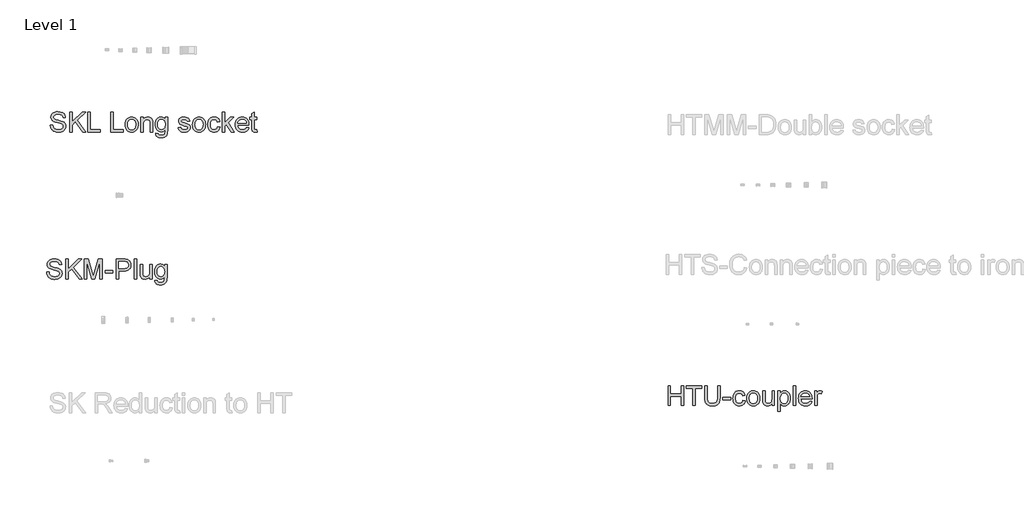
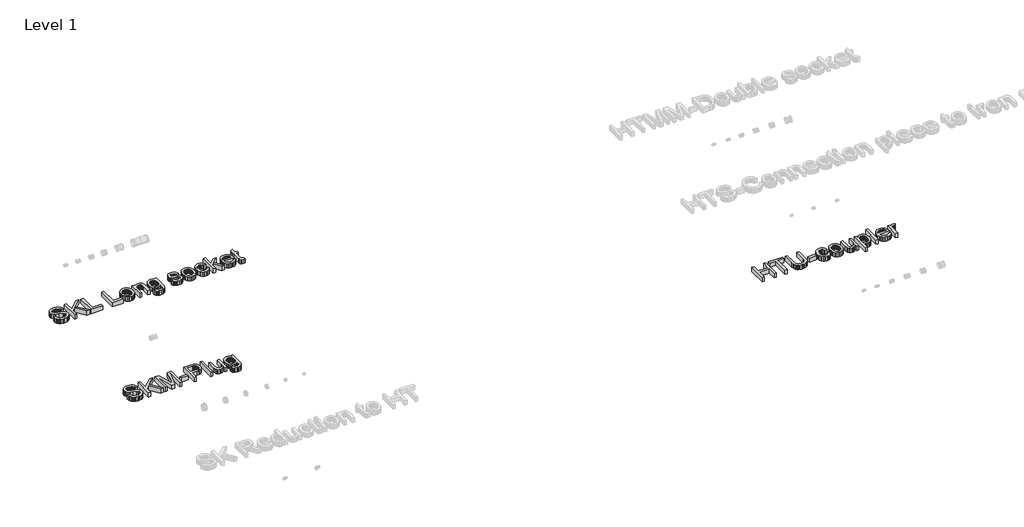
# One storey, part 15 of 29: 3 proxies.
"""IFC4 building model written with IfcOpenShell, lengths in millimetres."""

import ifcopenshell
import ifcopenshell.guid

model = None  # the IFC model being written
_history = None  # IfcOwnerHistory: only IFC2X3 demands one
_inside = {}  # id of a spatial element -> (the spatial element, [elements in it])
_under = {}  # id of a project, library or spatial element -> (it, [spatial elements below it])
_declared = {}  # id of a project -> (the project, [libraries it declares])
_typed = {}  # id of a type object -> (the type object, [elements of that type])
_made_of = {}  # id of a material, layer set ... -> (it, [elements and type objects made of it])


def new_model(schema):
    """Start an empty IFC model of exactly this schema.

    Asked for "IFC4X3", IfcOpenShell would pick the latest addendum, in which some entities
    have other attributes; the version numbers below select the first issue.
    IFC2X3 requires an IfcOwnerHistory on every rooted entity: one is made here for all.
    """
    global model, _history
    if schema == "IFC4X3":
        model = ifcopenshell.file(schema_version=(4, 3, 0, 0))
    else:
        model = ifcopenshell.file(schema=schema)
    _inside.clear()
    _under.clear()
    _declared.clear()
    _typed.clear()
    _made_of.clear()
    _history = None
    if model.schema == "IFC2X3":
        org = make("IfcOrganization", Name="unknown")
        user = make(
            "IfcPersonAndOrganization",
            ThePerson=make("IfcPerson", FamilyName="unknown"),
            TheOrganization=org,
        )
        app = make(
            "IfcApplication",
            ApplicationDeveloper=org,
            Version="unknown",
            ApplicationFullName="unknown",
            ApplicationIdentifier="unknown",
        )
        _history = make(
            "IfcOwnerHistory",
            OwningUser=user,
            OwningApplication=app,
            ChangeAction="ADDED",
            CreationDate=0,
        )
    return model


def make(cls, **values):
    """One entity of the class cls with the attributes given. An attribute that is None is left unset."""
    return model.create_entity(
        cls, **{name: value for name, value in values.items() if value is not None}
    )


def rooted(cls, **values):
    """An entity with a GlobalId (a new one), such as an element, a storey or a relation."""
    return make(cls, GlobalId=ifcopenshell.guid.new(), OwnerHistory=_history, **values)


def si_unit(unit_type, name, prefix=None):
    """IfcSIUnit, for example si_unit("LENGTHUNIT", "METRE", prefix="MILLI")."""
    return make("IfcSIUnit", UnitType=unit_type, Prefix=prefix, Name=name)


def assignment(units):
    """IfcUnitAssignment: the units of a project."""
    return None if units is None else make("IfcUnitAssignment", Units=units)


def point(xyz):
    """IfcCartesianPoint."""
    return None if xyz is None else make("IfcCartesianPoint", Coordinates=xyz)


def direction(xyz):
    """IfcDirection."""
    return None if xyz is None else make("IfcDirection", DirectionRatios=xyz)


def frame(location, z_axis=None, x_axis=None):
    """IfcAxis2Placement3D, a coordinate frame: its origin and axes. An axis left out is left unset."""
    return make(
        "IfcAxis2Placement3D",
        Location=point(location),
        Axis=direction(z_axis),
        RefDirection=direction(x_axis),
    )


def origin():
    """The frame at (0, 0, 0) with its axes left unset."""
    return frame((0.0, 0.0, 0.0))


def origin_with_axes():
    """The frame at (0, 0, 0) with the z axis (0, 0, 1) and the x axis (1, 0, 0) written out."""
    return frame((0.0, 0.0, 0.0), z_axis=(0.0, 0.0, 1.0), x_axis=(1.0, 0.0, 0.0))


def place(relative_to, where):
    """IfcLocalPlacement: puts the frame where relative to a parent placement (None: the world)."""
    return make(
        "IfcLocalPlacement", PlacementRelTo=relative_to, RelativePlacement=where
    )


def context(
    kind, dimensions, precision=None, world=None, true_north=None, identifier=None
):
    """IfcGeometricRepresentationContext, for example the 3D "Model" context."""
    return make(
        "IfcGeometricRepresentationContext",
        ContextIdentifier=identifier,
        ContextType=kind,
        CoordinateSpaceDimension=dimensions,
        Precision=precision,
        WorldCoordinateSystem=world,
        TrueNorth=true_north,
    )


def project(units=None, contexts=None):
    """IfcProject with its units and contexts."""
    return rooted(
        "IfcProject",
        Name="project",
        RepresentationContexts=contexts,
        UnitsInContext=assignment(units),
    )


def spatial(cls, under=None, at=None, **own):
    """A site, building, storey or space (cls), placed at a placement, below another one or the project."""
    s = rooted(cls, ObjectPlacement=at, **own)
    if under is not None:
        _under.setdefault(under.id(), (under, []))[1].append(s)
    return s


def polyline(points):
    """IfcPolyline through the points."""
    return make("IfcPolyline", Points=[point(p) for p in points])


def outline(outer, holes=None, kind="AREA"):
    """IfcArbitraryClosedProfileDef: a profile drawn as a closed curve; with holes, ...WithVoids."""
    if holes is None:
        return make("IfcArbitraryClosedProfileDef", ProfileType=kind, OuterCurve=outer)
    return make(
        "IfcArbitraryProfileDefWithVoids",
        ProfileType=kind,
        OuterCurve=outer,
        InnerCurves=holes,
    )


def extrude(swept, where, along, depth):
    """IfcExtrudedAreaSolid: the profile swept, set in the frame where, extruded along a direction by depth."""
    return make(
        "IfcExtrudedAreaSolid",
        SweptArea=swept,
        Position=where,
        ExtrudedDirection=direction(along),
        Depth=depth,
    )


def shape(context_of_items, identifier, shape_type, items):
    """IfcShapeRepresentation: the items that make up one representation, for example the "Body"."""
    return make(
        "IfcShapeRepresentation",
        ContextOfItems=context_of_items,
        RepresentationIdentifier=identifier,
        RepresentationType=shape_type,
        Items=items,
    )


def made_of(thing, what):
    """Note that an element or type object is made of a material, layer set ...; save() writes the relation."""
    if what is not None:
        _made_of.setdefault(what.id(), (what, []))[1].append(thing)
    return thing


def element(
    cls,
    number,
    at=None,
    inside=None,
    cuts=None,
    type_object=None,
    material=None,
    context=None,
    identifier="Body",
    shape_type=None,
    held_by="IfcProductDefinitionShape",
    body=None,
    shapes=None,
    **own,
):
    """One element of the class cls, such as IfcWall. Its Tag is "e" and its number.

    at: its placement. inside: the storey or other place that contains it. cuts: it is an
    opening in that element (IfcRelVoidsElement). A single representation is given by context,
    identifier, shape_type and body (its items); several are given by shapes. held_by: the class
    of the entity that holds the representations. save() writes the other relations.
    """
    e = rooted(cls, Tag="e%d" % number, ObjectPlacement=at, **own)
    if body is not None:
        shapes = [shape(context, identifier, shape_type, body)]
    if shapes is not None:
        e.Representation = make(held_by, Representations=shapes)
    if inside is not None:
        _inside.setdefault(inside.id(), (inside, []))[1].append(e)
    if cuts is not None:
        rooted(
            "IfcRelVoidsElement", RelatingBuildingElement=cuts, RelatedOpeningElement=e
        )
    if type_object is not None:
        _typed.setdefault(type_object.id(), (type_object, []))[1].append(e)
    return made_of(e, material)


def aggregate(whole, parts):
    """IfcRelAggregates: a whole, such as a stair, and the parts it consists of."""
    return rooted("IfcRelAggregates", RelatingObject=whole, RelatedObjects=parts)


def save(model, path):
    """Write the relations noted so far, then the file.

    IfcRelAggregates (storeys below a building ...), IfcRelContainedInSpatialStructure (elements
    in a storey), IfcRelDefinesByType, IfcRelAssociatesMaterial and IfcRelDeclares: one each for
    every whole, place, type object, material and project.
    """
    for whole, parts in _under.values():
        aggregate(whole, parts)
    for where, things in _inside.values():
        rooted(
            "IfcRelContainedInSpatialStructure",
            RelatedElements=things,
            RelatingStructure=where,
        )
    for kind, things in _typed.values():
        rooted("IfcRelDefinesByType", RelatedObjects=things, RelatingType=kind)
    for what, things in _made_of.values():
        rooted("IfcRelAssociatesMaterial", RelatedObjects=things, RelatingMaterial=what)
    for by, libraries in _declared.values():
        rooted("IfcRelDeclares", RelatingContext=by, RelatedDefinitions=libraries)
    model.write(path)


model = new_model("IFC4")

# Units and contexts
model_context = context("Model", 3, world=origin())
ifc_project = project(units=[si_unit("LENGTHUNIT", "METRE", prefix="MILLI")], contexts=[model_context])

# Site, building, storey
site = spatial("IfcSite", under=ifc_project)
building = spatial("IfcBuilding", under=site)
storey = spatial("IfcBuildingStorey", under=building, Name="Level 1", Elevation=0.0)

# Proxies
placement = place(None, origin())
element("IfcBuildingElementProxy", 1, Name="600mm Arial", ObjectType="600mm Arial", at=placement, inside=storey, context=model_context, shape_type="SweptSolid", body=[
    extrude(outline(polyline([(-4445.901477, 3464.1130885), (-4370.5592444, 3464.1130885), (-4361.9140175, 3422.3032997), (-4346.2790327, 3388.6972795), (-4321.8884564, 3362.0258348), (-4286.9764551, 3341.0197729), (-4244.3021436, 3327.389745), (-4196.6246371, 3322.8464023), (-4154.6493014, 3326.286099), (-4117.8978901, 3336.605189), (-4088.1178426, 3352.9391495), (-4067.0565984, 3374.4234581), (-4054.5302164, 3399.0899458), (-4050.3547558, 3424.9704442), (-4053.4817527, 3450.188755), (-4062.8627436, 3471.9857632), (-4081.919031, 3490.582198), (-4114.0719173, 3506.1987887), (-4223.7743283, 3534.9671608), (-4295.7872289, 3554.005054), (-4341.8644487, 3572.1232423), (-4379.3700182, 3597.4703117), (-4405.9494923, 3628.1884583), (-4421.7868122, 3663.6154945), (-4427.0659188, 3703.0892325), (-4425.4334425, 3725.5254357), (-4420.5360134, 3747.2166779), (-4412.3736316, 3768.162959), (-4400.9462972, 3788.364279), (-4386.3827687, 3806.9975021), (-4368.8118049, 3823.2394922), (-4348.2334058, 3837.0902493), (-4324.6475714, 3848.5497734), (-4271.6357759, 3863.9456349), (-4212.9585976, 3869.0775888), (-4149.3885889, 3863.7065116), (-4093.7648312, 3847.5932803), (-4069.4294372, 3835.5911302), (-4048.0738874, 3821.0689884), (-4029.6981817, 3804.026855), (-4014.3023202, 3784.4647299), (-4002.0058646, 3762.9528302), (-3992.9283763, 3740.0613731), (-3987.0698555, 3715.7903584), (-3984.4303022, 3690.1397863), (-4059.7725348, 3690.1397863), (-4064.8125182, 3714.1808747), (-4073.6048979, 3735.0949661), (-4086.1496739, 3752.8820606), (-4102.4468463, 3767.5421581), (-4122.7999177, 3779.0016823), (-4147.5123907, 3787.1870566), (-4176.5842654, 3792.0982813), (-4210.0155417, 3793.7353562), (-4244.5136758, 3792.1166754), (-4273.9902206, 3787.260633), (-4298.4451763, 3779.1672291), (-4317.8785427, 3767.8364637), (-4332.685793, 3754.2156328), (-4343.2624003, 3739.2520327), (-4349.6083647, 3722.9456632), (-4351.7236862, 3705.2965245), (-4350.2245671, 3690.1121952), (-4345.7272097, 3676.3442115), (-4338.231614, 3663.9925735), (-4327.7377801, 3653.0572812), (-4311.2198785, 3642.701403), (-4285.2106215, 3632.2351603), (-4204.7180409, 3610.971581), (-4121.6502864, 3590.7748594), (-4071.3976059, 3573.1533118), (-4028.447383, 3545.8196796), (-4011.8421094, 3529.7524335), (-3998.4833945, 3512.0849007), (-3988.2148883, 3492.9090517), (-3980.880241, 3472.316857), (-3975.0125232, 3426.8834306), (-3976.7001818, 3403.3159903), (-3981.7631578, 3380.4383287), (-3990.201451, 3358.2504458), (-4002.0150616, 3336.7523417), (-4016.9970559, 3316.7763494), (-4034.9405002, 3299.1548018), (-4055.8453945, 3283.887699), (-4079.711739, 3270.975041), (-4105.8451562, 3260.7065348), (-4133.551269, 3253.3718875), (-4193.6815811, 3247.5041697), (-4232.2218186, 3249.0860623), (-4267.4971034, 3253.83174), (-4299.5074355, 3261.7412029), (-4328.2528149, 3272.814451), (-4353.9079856, 3287.0698783), (-4376.6476914, 3304.525879), (-4396.4719324, 3325.182453), (-4413.3807086, 3349.0396004), (-4427.0015395, 3375.3247689), (-4436.9619445, 3403.2654065), (-4443.2619237, 3432.861513), (-4445.901477, 3464.1130885)])), origin_with_axes(), (0.0, 0.0, 1.0), 150.0),
    extrude(outline(polyline([(-3861.9991742, 3256.9219488), (-3861.9991742, 3859.6598097), (-3786.6569416, 3859.6598097), (-3786.6569416, 3564.6184496), (-3477.6360657, 3859.6598097), (-3372.2746623, 3859.6598097), (-3631.7050453, 3611.8544977), (-3362.8568832, 3256.9219488), (-3454.9745348, 3256.9219488), (-3685.121511, 3560.9396296), (-3786.6569416, 3464.1130885), (-3786.6569416, 3256.9219488), (-3861.9991742, 3256.9219488)])), origin_with_axes(), (0.0, 0.0, 1.0), 150.0),
    extrude(outline(polyline([(-3306.3502087, 3256.9219488), (-3306.3502087, 3859.6598097), (-3176.7085936, 3859.6598097), (-3053.3945488, 3434.8296817), (-3028.525726, 3346.0965444), (-3001.5967639, 3442.1873216), (-2880.3428583, 3859.6598097), (-2750.7012432, 3859.6598097), (-2750.7012432, 3256.9219488), (-2826.0434758, 3256.9219488), (-2826.0434758, 3784.3175771), (-2977.463705, 3256.9219488), (-3079.5877469, 3256.9219488), (-3231.0079761, 3784.3175771), (-3231.0079761, 3256.9219488), (-3306.3502087, 3256.9219488)])), origin_with_axes(), (0.0, 0.0, 1.0), 150.0),
    extrude(outline(polyline([(-2665.9412315, 3435.8597512), (-2665.9412315, 3511.2019839), (-2430.4967546, 3511.2019839), (-2430.4967546, 3435.8597512), (-2665.9412315, 3435.8597512)])), origin_with_axes(), (0.0, 0.0, 1.0), 150.0),
    extrude(outline(polyline([(-2336.3189638, 3256.9219488), (-2336.3189638, 3859.6598097), (-2112.9410164, 3859.6598097), (-2060.9225023, 3858.2250699), (-2022.883504, 3853.9208506), (-1982.7291842, 3843.1970904), (-1949.6749869, 3825.7410897), (-1923.0587246, 3800.7619023), (-1902.2182095, 3767.4685817), (-1888.7537285, 3728.1971787), (-1884.2655682, 3685.283744), (-1887.2959961, 3648.2840123), (-1896.3872799, 3614.2457307), (-1911.5394196, 3583.1688992), (-1932.7524151, 3555.0535177), (-1961.8748736, 3531.7481933), (-2000.7554019, 3515.101533), (-2049.3940002, 3505.1135368), (-2107.7906684, 3501.7842048), (-2260.9767312, 3501.7842048), (-2260.9767312, 3256.9219488), (-2336.3189638, 3256.9219488)]), holes=[polyline([(-2260.9767312, 3577.1264374), (-2103.3760845, 3577.1264374), (-2067.139708, 3578.8554828), (-2036.5687142, 3584.0426189), (-2011.6631031, 3592.6878458), (-1992.4228748, 3604.7911634), (-1978.0662799, 3620.0306751), (-1967.8115693, 3638.084484), (-1961.6587429, 3658.9525902), (-1959.6078008, 3682.6349936), (-1964.445449, 3716.4801372), (-1978.9583937, 3745.02778), (-2001.3440131, 3766.5120885), (-2029.7996855, 3779.1672291), (-2058.8623631, 3783.0299901), (-2105.1419181, 3784.3175771), (-2260.9767312, 3784.3175771), (-2260.9767312, 3577.1264374)])]), origin_with_axes(), (0.0, 0.0, 1.0), 150.0),
    extrude(outline(polyline([(-1790.0877774, 3256.9219488), (-1790.0877774, 3859.6598097), (-1714.7455448, 3859.6598097), (-1714.7455448, 3256.9219488), (-1790.0877774, 3256.9219488)])), origin_with_axes(), (0.0, 0.0, 1.0), 150.0),
    extrude(outline(polyline([(-1319.1988236, 3256.9219488), (-1319.1988236, 3332.9999454), (-1346.4588794, 3295.5955435), (-1378.2070956, 3268.8781136), (-1414.4434721, 3252.8476557), (-1455.168009, 3247.5041697), (-1491.864238, 3251.2565661), (-1526.0220813, 3262.5137551), (-1554.6800887, 3279.4363269), (-1574.8768102, 3300.1848714), (-1588.4700499, 3325.3847881), (-1597.3176119, 3355.6614763), (-1601.7321959, 3425.7062082), (-1601.7321959, 3699.5575654), (-1526.3899633, 3699.5575654), (-1526.3899633, 3461.1700325), (-1525.2495291, 3413.4925259), (-1521.8282265, 3384.3562719), (-1510.846949, 3358.733291), (-1492.0297849, 3339.2539393), (-1466.6275331, 3326.9482866), (-1435.8909924, 3322.8464023), (-1403.3886182, 3327.0402571), (-1372.9831713, 3339.6218213), (-1347.9120133, 3359.4322668), (-1331.4125058, 3385.3127651), (-1322.2522441, 3420.7581953), (-1319.1988236, 3469.2634364), (-1319.1988236, 3699.5575654), (-1243.856591, 3699.5575654), (-1243.856591, 3256.9219488), (-1319.1988236, 3256.9219488)])), origin_with_axes(), (0.0, 0.0, 1.0), 150.0),
    extrude(outline(polyline([(-1159.0965793, 3219.2508325), (-1083.7543467, 3209.8330534), (-1075.4402136, 3186.2886057), (-1059.3269822, 3170.1017979), (-1027.6523424, 3157.5202337), (-986.1920415, 3153.326379), (-941.9726257, 3158.0720567), (-924.1119549, 3164.0041539), (-909.0839754, 3172.3090899), (-886.2752917, 3195.1177736), (-872.2957758, 3225.5784028), (-868.2122857, 3257.9888066), (-867.1454279, 3313.4286233), (-892.2165859, 3288.7069532), (-920.1940116, 3271.0486174), (-951.0777051, 3260.4536159), (-984.8676664, 3256.9219488), (-1026.1762159, 3261.0330301), (-1062.5459496, 3273.366274), (-1093.9768676, 3293.9216805), (-1120.4689698, 3322.6992495), (-1141.4888273, 3357.2249748), (-1156.5030112, 3395.0248498), (-1165.5115216, 3436.0988745), (-1168.5143584, 3480.4470491), (-1163.1248871, 3541.276337), (-1146.9564734, 3597.2127943), (-1134.9727174, 3622.4357036), (-1120.5793344, 3644.6143894), (-1103.7763243, 3663.7488517), (-1084.5636871, 3679.8390905), (-1063.249524, 3692.5862016), (-1040.1419361, 3701.691281), (-1015.2409236, 3707.1543286), (-988.5464863, 3708.9753445), (-953.3125882, 3704.8550661), (-921.3344458, 3692.4942311), (-892.612059, 3671.8928394), (-867.1454279, 3643.0508909), (-867.1454279, 3699.5575654), (-791.8031953, 3699.5575654), (-791.8031953, 3317.4017488), (-796.9535432, 3229.1652523), (-803.3914781, 3196.3455798), (-812.404587, 3171.0582911), (-824.2090005, 3150.663833), (-839.0208494, 3132.5226521), (-856.8401335, 3116.6347485), (-877.666853, 3103.000122), (-901.2894756, 3092.0556327), (-927.4964692, 3084.2381403), (-956.2878339, 3079.5476448), (-987.6635695, 3077.9841463), (-1024.5759292, 3080.1868398), (-1057.7634837, 3086.7949201), (-1087.226233, 3097.8083874), (-1112.9641771, 3113.2272415), (-1133.7541083, 3133.0698766), (-1148.3728191, 3157.3546868), (-1156.8203094, 3186.0816721), (-1159.0965793, 3219.2508325)]), holes=[polyline([(-1093.1721257, 3485.597397), (-1091.1625703, 3448.3447465), (-1085.1339041, 3416.4907642), (-1075.0861272, 3390.0354502), (-1061.0192394, 3368.9788045), (-1043.9173251, 3352.9161569), (-1024.7644687, 3341.4428372), (-1003.5606702, 3334.5588454), (-980.3059296, 3332.2641814), (-957.2811152, 3334.5450498), (-936.1784843, 3341.3876549), (-916.9980368, 3352.7919967), (-899.7397727, 3368.7580753), (-885.4797468, 3389.6077874), (-875.2940141, 3415.6630297), (-869.1825745, 3446.9238023), (-867.1454279, 3483.390105), (-869.2423553, 3518.334296), (-875.5331374, 3548.7075533), (-886.0177743, 3574.5098767), (-900.6962659, 3595.7412664), (-918.3270105, 3612.3189488), (-937.6684064, 3624.1601505), (-958.7204536, 3631.2648715), (-981.483152, 3633.6331119), (-1003.8641729, 3631.3016597), (-1024.5069513, 3624.3073033), (-1043.4114874, 3612.6500426), (-1060.577781, 3596.3298775), (-1074.8378068, 3575.4203846), (-1085.0235395, 3549.9951403), (-1091.1349792, 3520.0541444), (-1093.1721257, 3485.597397)])]), origin_with_axes(), (0.0, 0.0, 1.0), 150.0),
])
element("IfcBuildingElementProxy", 2, Name="600mm Arial", ObjectType="600mm Arial", at=placement, inside=storey, context=model_context, shape_type="SweptSolid", body=[
    extrude(outline(polyline([(-4332.542653, 7931.5097651), (-4257.2004204, 7931.5097651), (-4248.5551935, 7889.6999763), (-4232.9202087, 7856.0939561), (-4208.5296324, 7829.4225114), (-4173.6176311, 7808.4164495), (-4130.9433196, 7794.7864216), (-4083.265813, 7790.2430789), (-4041.2904774, 7793.6827756), (-4004.5390661, 7804.0018655), (-3974.7590186, 7820.3358261), (-3953.6977743, 7841.8201346), (-3941.1713924, 7866.4866224), (-3936.9959318, 7892.3671208), (-3940.1229287, 7917.5854316), (-3949.5039196, 7939.3824398), (-3968.5602069, 7957.9788746), (-4000.7130933, 7973.5954653), (-4110.4155043, 8002.3638373), (-4182.4284048, 8021.4017306), (-4228.5056247, 8039.5199189), (-4266.0111941, 8064.8669883), (-4292.5906683, 8095.5851349), (-4308.4279882, 8131.0121711), (-4313.7070948, 8170.4859091), (-4312.0746185, 8192.9221123), (-4307.1771894, 8214.6133545), (-4299.0148076, 8235.5596356), (-4287.5874732, 8255.7609556), (-4273.0239447, 8274.3941787), (-4255.4529809, 8290.6361688), (-4234.8745818, 8304.4869259), (-4211.2887474, 8315.94645), (-4158.2769519, 8331.3423115), (-4099.5997736, 8336.4742654), (-4036.0297649, 8331.1031882), (-3980.4060072, 8314.9899568), (-3956.0706132, 8302.9878068), (-3934.7150634, 8288.465665), (-3916.3393577, 8271.4235316), (-3900.9434962, 8251.8614065), (-3888.6470405, 8230.3495068), (-3879.5695523, 8207.4580497), (-3873.7110315, 8183.187035), (-3871.0714782, 8157.5364629), (-3946.4137108, 8157.5364629), (-3951.4536942, 8181.5775513), (-3960.2460739, 8202.4916427), (-3972.7908499, 8220.2787372), (-3989.0880223, 8234.9388347), (-4009.4410937, 8246.3983588), (-4034.1535667, 8254.5837332), (-4063.2254414, 8259.4949579), (-4096.6567177, 8261.1320327), (-4131.1548518, 8259.513352), (-4160.6313966, 8254.6573096), (-4185.0863523, 8246.5639057), (-4204.5197187, 8235.2331403), (-4219.326969, 8221.6123094), (-4229.9035763, 8206.6487093), (-4236.2495407, 8190.3423398), (-4238.3648622, 8172.6932011), (-4236.8657431, 8157.5088718), (-4232.3683857, 8143.7408881), (-4224.87279, 8131.3892501), (-4214.3789561, 8120.4539578), (-4197.8610545, 8110.0980796), (-4171.8517975, 8099.6318369), (-4091.3592169, 8078.3682575), (-4008.2914624, 8058.171536), (-3958.0387819, 8040.5499884), (-3915.0885589, 8013.2163562), (-3898.4832854, 7997.1491101), (-3885.1245704, 7979.4815772), (-3874.8560642, 7960.3057282), (-3867.521417, 7939.7135336), (-3861.6536991, 7894.2801072), (-3863.3413578, 7870.7126668), (-3868.4043338, 7847.8350053), (-3876.842627, 7825.6471224), (-3888.6562376, 7804.1490183), (-3903.6382318, 7784.173026), (-3921.5816762, 7766.5514784), (-3942.4865705, 7751.2843756), (-3966.352915, 7738.3717176), (-3992.4863322, 7728.1032114), (-4020.192445, 7720.7685641), (-4080.3227571, 7714.9008463), (-4118.8629946, 7716.4827389), (-4154.1382794, 7721.2284166), (-4186.1486115, 7729.1378795), (-4214.8939909, 7740.2111276), (-4240.5491616, 7754.4665549), (-4263.2888674, 7771.9225556), (-4283.1131084, 7792.5791296), (-4300.0218846, 7816.436277), (-4313.6427155, 7842.7214455), (-4323.6031205, 7870.6620831), (-4329.9030997, 7900.2581896), (-4332.542653, 7931.5097651)])), origin_with_axes(), (0.0, 0.0, 1.0), 150.0),
    extrude(outline(polyline([(-3748.6403502, 7724.3186254), (-3748.6403502, 8327.0564863), (-3673.2981176, 8327.0564863), (-3673.2981176, 8032.0151262), (-3364.2772417, 8327.0564863), (-3258.9158382, 8327.0564863), (-3518.3462212, 8079.2511743), (-3249.4980592, 7724.3186254), (-3341.6157108, 7724.3186254), (-3571.7626869, 8028.3363062), (-3673.2981176, 7931.5097651), (-3673.2981176, 7724.3186254), (-3748.6403502, 7724.3186254)])), origin_with_axes(), (0.0, 0.0, 1.0), 150.0),
    extrude(outline(polyline([(-3192.9913847, 7724.3186254), (-3192.9913847, 8327.0564863), (-3117.6491521, 8327.0564863), (-3117.6491521, 7799.660858), (-2816.2802217, 7799.660858), (-2816.2802217, 7724.3186254), (-3192.9913847, 7724.3186254)])), origin_with_axes(), (0.0, 0.0, 1.0), 150.0),
    extrude(outline(polyline([(-2496.0757331, 7724.3186254), (-2496.0757331, 8327.0564863), (-2420.7335004, 8327.0564863), (-2420.7335004, 7799.660858), (-2119.36457, 7799.660858), (-2119.36457, 7724.3186254), (-2496.0757331, 7724.3186254)])), origin_with_axes(), (0.0, 0.0, 1.0), 150.0),
    extrude(outline(polyline([(-2062.8578955, 7945.6364337), (-2058.7836024, 8002.9616456), (-2046.5607231, 8052.3590005), (-2026.1892577, 8093.8284984), (-1997.669206, 8127.3701393), (-1968.9560163, 8148.8084626), (-1937.2629824, 8164.1215506), (-1902.5901043, 8173.3094035), (-1864.9373821, 8176.3720211), (-1823.3713152, 8172.6426173), (-1785.7875709, 8161.4544062), (-1752.1861491, 8142.8073875), (-1722.56705, 8116.7015614), (-1698.3926044, 8084.0198447), (-1681.1251432, 8045.6451541), (-1670.7646665, 8001.5774896), (-1667.3111743, 7951.8168512), (-1668.8378846, 7911.4877875), (-1673.4180154, 7875.7020664), (-1681.0515668, 7844.459688), (-1691.7385388, 7817.7606522), (-1705.3455741, 7794.6990496), (-1721.7393155, 7774.3689708), (-1740.919763, 7756.7704159), (-1762.8869167, 7741.9033848), (-1786.7854508, 7730.0897742), (-1811.7600397, 7721.6514809), (-1837.8106835, 7716.588505), (-1864.9373821, 7714.9008463), (-1907.1104543, 7718.6164545), (-1945.0436866, 7729.7632789), (-1978.7370788, 7748.3413197), (-2008.190631, 7774.3505767), (-2032.1075593, 7807.3495917), (-2049.1910794, 7846.8969062), (-2059.4411915, 7892.9925202), (-2062.8578955, 7945.6364337)]), holes=[polyline([(-1987.5156629, 7945.7835865), (-1985.3359621, 7909.2391088), (-1978.7968596, 7877.5966587), (-1967.8983555, 7850.8562362), (-1952.6404498, 7829.0178412), (-1934.0808031, 7812.0538827), (-1913.2770763, 7799.9367695), (-1890.2292693, 7792.6665016), (-1864.9373821, 7790.2430789), (-1839.7742537, 7792.6802971), (-1816.8184172, 7799.9919518), (-1796.0698726, 7812.1780429), (-1777.5286201, 7829.2385704), (-1762.2707143, 7851.293096), (-1751.3722102, 7878.4611814), (-1744.8331078, 7910.7428264), (-1742.6534069, 7948.1380313), (-1744.8469033, 7983.5236807), (-1751.4273925, 8014.3383963), (-1762.3948745, 8040.5821781), (-1777.7493493, 8062.2550262), (-1796.3595797, 8079.2189847), (-1817.0943287, 8091.3360979), (-1839.9535961, 8098.6063658), (-1864.9373821, 8101.0297884), (-1890.2292693, 8098.6155629), (-1913.2770763, 8091.3728861), (-1934.0808031, 8079.3017581), (-1952.6404498, 8062.402179), (-1967.8983555, 8040.6281634), (-1978.7968596, 8013.9337261), (-1985.3359621, 7982.3188671), (-1987.5156629, 7945.7835865)])]), origin_with_axes(), (0.0, 0.0, 1.0), 150.0),
    extrude(outline(polyline([(-1582.5511626, 7724.3186254), (-1582.5511626, 8166.954242), (-1507.20893, 8166.954242), (-1507.20893, 8105.1500668), (-1481.0341261, 8136.3096718), (-1449.5986096, 8158.5665325), (-1412.9023806, 8171.9206489), (-1370.945439, 8176.3720211), (-1333.8077516, 8172.7851716), (-1299.7970611, 8162.0246232), (-1271.4333593, 8145.4331453), (-1251.2366378, 8124.3535069), (-1237.5330335, 8098.8408906), (-1228.6486833, 8068.9504785), (-1224.6755577, 7996.1098434), (-1224.6755577, 7724.3186254), (-1300.0177903, 7724.3186254), (-1300.0177903, 7985.9563004), (-1302.1882941, 8024.9150036), (-1308.6998054, 8052.6165179), (-1320.7111526, 8072.4637515), (-1339.3811638, 8087.859613), (-1363.3118876, 8097.7372446), (-1391.1053723, 8101.0297884), (-1413.9830339, 8099.1811814), (-1435.2328177, 8093.6353603), (-1454.8547236, 8084.3923252), (-1472.8487517, 8071.452076), (-1487.8813297, 8053.3430848), (-1498.6188854, 8028.5938236), (-1505.0614189, 7997.2042924), (-1507.20893, 7959.1744911), (-1507.20893, 7724.3186254), (-1582.5511626, 7724.3186254)])), origin_with_axes(), (0.0, 0.0, 1.0), 150.0),
    extrude(outline(polyline([(-1139.915546, 7686.6475091), (-1064.5733134, 7677.22973), (-1056.2591803, 7653.6852823), (-1040.1459489, 7637.4984745), (-1008.4713092, 7624.9169103), (-967.0110083, 7620.7230555), (-922.7915925, 7625.4687333), (-904.9309216, 7631.4008305), (-889.9029421, 7639.7057665), (-867.0942584, 7662.5144502), (-853.1147426, 7692.9750794), (-849.0312524, 7725.3854832), (-847.9643947, 7780.8252998), (-873.0355526, 7756.1036298), (-901.0129784, 7738.445294), (-931.8966719, 7727.8502925), (-965.6866331, 7724.3186254), (-1006.9951826, 7728.4297067), (-1043.3649164, 7740.7629506), (-1074.7958344, 7761.3183571), (-1101.2879365, 7790.0959261), (-1122.307794, 7824.6216514), (-1137.321978, 7862.4215264), (-1146.3304883, 7903.4955511), (-1149.3333251, 7947.8437257), (-1143.9438539, 8008.6730136), (-1127.7754402, 8064.6094709), (-1115.7916842, 8089.8323802), (-1101.3983011, 8112.011066), (-1084.595291, 8131.1455283), (-1065.3826538, 8147.235767), (-1044.0684907, 8159.9828782), (-1020.9609029, 8169.0879576), (-996.0598903, 8174.5510052), (-969.3654531, 8176.3720211), (-934.131555, 8172.2517427), (-902.1534125, 8159.8909077), (-873.4310258, 8139.2895159), (-847.9643947, 8110.4475675), (-847.9643947, 8166.954242), (-772.622162, 8166.954242), (-772.622162, 7784.7984254), (-777.77251, 7696.5619289), (-784.2104449, 7663.7422564), (-793.2235538, 7638.4549677), (-805.0279673, 7618.0605096), (-819.8398161, 7599.9193287), (-837.6591003, 7584.0314251), (-858.4858197, 7570.3967986), (-882.1084423, 7559.4523092), (-908.315436, 7551.6348169), (-937.1068006, 7546.9443214), (-968.4825363, 7545.3808229), (-1005.394896, 7547.5835164), (-1038.5824505, 7554.1915967), (-1068.0451997, 7565.2050639), (-1093.7831438, 7580.6239181), (-1114.5730751, 7600.4665532), (-1129.1917859, 7624.7513634), (-1137.6392762, 7653.4783487), (-1139.915546, 7686.6475091)]), holes=[polyline([(-1073.9910925, 7952.9940736), (-1071.9815371, 7915.7414231), (-1065.9528709, 7883.8874408), (-1055.9050939, 7857.4321268), (-1041.8382061, 7836.3754811), (-1024.7362919, 7820.3128335), (-1005.5834355, 7808.8395138), (-984.379637, 7801.9555219), (-961.1248964, 7799.660858), (-938.100082, 7801.9417264), (-916.9974511, 7808.7843315), (-897.8170035, 7820.1886733), (-880.5587394, 7836.1547519), (-866.2987136, 7857.004464), (-856.1129809, 7883.0597063), (-850.0015412, 7914.3204788), (-847.9643947, 7950.7867816), (-850.061322, 7985.7309726), (-856.3521041, 8016.1042299), (-866.836741, 8041.9065533), (-881.5152326, 8063.1379429), (-899.1459772, 8079.7156254), (-918.4873731, 8091.5568271), (-939.5394203, 8098.6615481), (-962.3021188, 8101.0297884), (-984.6831396, 8098.6983363), (-1005.3259181, 8091.7039799), (-1024.2304541, 8080.0467191), (-1041.3967477, 8063.7265541), (-1055.6567736, 8042.8170612), (-1065.8425063, 8017.3918168), (-1071.9539459, 7987.450821), (-1073.9910925, 7952.9940736)])]), origin_with_axes(), (0.0, 0.0, 1.0), 150.0),
    extrude(outline(polyline([(-452.4176734, 7856.1675325), (-377.0754408, 7865.5853115), (-372.5229011, 7848.4052224), (-365.1928524, 7833.3588488), (-355.0852946, 7820.4461907), (-342.2002277, 7809.6672483), (-326.5008635, 7801.1691742), (-307.9504139, 7795.0991213), (-262.2962583, 7790.2430789), (-217.1939257, 7794.6944511), (-199.6643487, 7800.2586662), (-185.4824977, 7808.0485675), (-166.720516, 7827.3991604), (-162.0300206, 7838.2332852), (-160.4665221, 7849.8399621), (-162.0392176, 7860.0118993), (-166.7573042, 7869.0434023), (-185.6296505, 7883.6851057), (-213.8461996, 7893.2500376), (-263.1791751, 7905.1694142), (-331.93632, 7925.0534361), (-376.6339824, 7942.0311901), (-405.3471722, 7960.5540486), (-426.150899, 7985.0733836), (-438.7876455, 8014.0256966), (-442.9998944, 8045.8474892), (-439.61538, 8075.0389255), (-429.4618369, 8101.9862816), (-413.4589702, 8125.6226998), (-392.5264846, 8144.8813223), (-371.7227578, 8157.003034), (-344.6282489, 8167.1749712), (-313.303097, 8174.0727586), (-279.8074413, 8176.3720211), (-230.7687714, 8172.674807), (-188.1312481, 8161.5831649), (-153.8446462, 8144.1823465), (-129.8587401, 8121.5576038), (-113.9662379, 8092.0350737), (-103.9598476, 8053.9408931), (-179.3020802, 8044.523114), (-188.8118298, 8068.2331086), (-207.6289939, 8086.0937794), (-235.9375134, 8097.2957862), (-273.9213294, 8101.0297884), (-317.184252, 8097.4613331), (-346.0262004, 8086.755967), (-362.2497964, 8071.3049232), (-367.6576618, 8053.4994347), (-365.4135816, 8041.9111518), (-358.6813411, 8031.5736678), (-347.1666346, 8022.3398297), (-330.5751566, 8014.9454016), (-265.6807727, 7998.9057466), (-155.0954449, 7963.4419223), (-125.8856145, 7946.4825623), (-103.7391184, 7923.2692084), (-89.7779967, 7893.7282842), (-85.1242895, 7857.7862132), (-90.5873371, 7820.6301317), (-106.97648, 7785.6813422), (-133.6663187, 7755.6805655), (-170.0314539, 7733.3685225), (-213.9565642, 7719.5177654), (-263.3263279, 7714.9008463), (-303.8761208, 7717.1265324), (-339.2939599, 7723.8035906), (-369.5798452, 7734.9320209), (-394.7337766, 7750.5118234), (-415.279986, 7770.4694217), (-431.7427053, 7794.7312393), (-444.1219345, 7823.2972762), (-452.4176734, 7856.1675325)])), origin_with_axes(), (0.0, 0.0, 1.0), 150.0),
    extrude(outline(polyline([(-19.1998359, 7945.6364337), (-15.1255428, 8002.9616456), (-2.9026635, 8052.3590005), (17.4688019, 8093.8284984), (45.9888536, 8127.3701393), (74.7020433, 8148.8084626), (106.3950772, 8164.1215506), (141.0679553, 8173.3094035), (178.7206775, 8176.3720211), (220.2867444, 8172.6426173), (257.8704887, 8161.4544062), (291.4719105, 8142.8073875), (321.0910096, 8116.7015614), (345.2654552, 8084.0198447), (362.5329164, 8045.6451541), (372.8933931, 8001.5774896), (376.3468853, 7951.8168512), (374.820175, 7911.4877875), (370.2400442, 7875.7020664), (362.6064928, 7844.459688), (351.9195208, 7817.7606522), (338.3124855, 7794.6990496), (321.9187441, 7774.3689708), (302.7382966, 7756.7704159), (280.7711429, 7741.9033848), (256.8726088, 7730.0897742), (231.8980199, 7721.6514809), (205.8473761, 7716.588505), (178.7206775, 7714.9008463), (136.5476053, 7718.6164545), (98.614373, 7729.7632789), (64.9209808, 7748.3413197), (35.4674286, 7774.3505767), (11.5505003, 7807.3495917), (-5.5330198, 7846.8969062), (-15.7831319, 7892.9925202), (-19.1998359, 7945.6364337)]), holes=[polyline([(56.1423967, 7945.7835865), (58.3220975, 7909.2391088), (64.8612, 7877.5966587), (75.7597041, 7850.8562362), (91.0176098, 7829.0178412), (109.5772565, 7812.0538827), (130.3809833, 7799.9367695), (153.4287903, 7792.6665016), (178.7206775, 7790.2430789), (203.883806, 7792.6802971), (226.8396424, 7799.9919518), (247.588187, 7812.1780429), (266.1294395, 7829.2385704), (281.3873453, 7851.293096), (292.2858494, 7878.4611814), (298.8249519, 7910.7428264), (301.0046527, 7948.1380313), (298.8111563, 7983.5236807), (292.2306671, 8014.3383963), (281.2631851, 8040.5821781), (265.9087103, 8062.2550262), (247.2984799, 8079.2189847), (226.563731, 8091.3360979), (203.7044635, 8098.6063658), (178.7206775, 8101.0297884), (153.4287903, 8098.6155629), (130.3809833, 8091.3728861), (109.5772565, 8079.3017581), (91.0176098, 8062.402179), (75.7597041, 8040.6281634), (64.8612, 8013.9337261), (58.3220975, 7982.3188671), (56.1423967, 7945.7835865)])]), origin_with_axes(), (0.0, 0.0, 1.0), 150.0),
    extrude(outline(polyline([(743.6402693, 7884.4208697), (818.9825019, 7875.0030906), (810.7879304, 7839.4518943), (797.97644, 7807.9933852), (780.5480304, 7780.6275633), (758.5027019, 7757.3544286), (732.7693563, 7738.7809863), (704.2768958, 7725.5142419), (673.0253203, 7717.5541952), (639.0146298, 7714.9008463), (596.7587842, 7718.6026589), (558.8715372, 7729.7080966), (525.3528889, 7748.2171595), (496.2028393, 7774.1298475), (472.6078079, 7806.9587171), (455.7542139, 7846.2163245), (445.6420576, 7891.9026698), (442.2713388, 7944.0177529), (448.028692, 8011.0642465), (455.2253836, 8041.2351687), (465.3007517, 8069.1712077), (478.3237744, 8094.3113435), (494.3634293, 8116.0945562), (513.4197167, 8134.5208456), (535.4926364, 8149.5902118), (559.5843086, 8161.3072534), (584.6968533, 8169.6765687), (610.8302705, 8174.698158), (637.9845603, 8176.3720211), (671.411238, 8174.0727586), (701.6465395, 8167.1749712), (728.6904647, 8155.6786588), (752.5430136, 8139.5838215), (772.7995159, 8119.2583413), (789.0553016, 8095.0701001), (801.3103705, 8067.019098), (809.5647228, 8035.1053349), (734.2224902, 8025.6875558), (720.5556741, 8058.5578121), (699.2737007, 8082.1206539), (671.5537923, 8096.3025048), (638.5731715, 8101.0297884), (612.9731831, 8098.7029348), (589.8839894, 8091.722374), (569.3055903, 8080.0881059), (551.2379858, 8063.8001305), (536.5273045, 8042.4813689), (526.019675, 8015.754742), (519.7150973, 7983.6202497), (517.6135714, 7946.0778921), (519.6691121, 7907.9699159), (525.835734, 7875.4629431), (536.1134373, 7848.5569737), (550.5022218, 7827.2520076), (568.2111413, 7811.0606013), (588.4492496, 7799.4953111), (611.2165466, 7792.556137), (636.5130323, 7790.2430789), (675.5269179, 7796.0188262), (692.3989059, 7803.2385104), (707.5142573, 7813.3460682), (720.449908, 7826.4518643), (730.7827935, 7842.6662632), (738.512914, 7861.989265), (743.6402693, 7884.4208697)])), origin_with_axes(), (0.0, 0.0, 1.0), 150.0),
    extrude(outline(polyline([(884.9069554, 7724.3186254), (884.9069554, 8327.0564863), (960.249188, 8327.0564863), (960.249188, 8003.1731777), (1129.1806002, 8166.954242), (1233.3647813, 8166.954242), (1062.3732299, 8001.1130386), (1242.7825603, 7724.3186254), (1154.7851871, 7724.3186254), (1008.368153, 7948.7266424), (960.249188, 7902.0792055), (960.249188, 7724.3186254), (884.9069554, 7724.3186254)])), origin_with_axes(), (0.0, 0.0, 1.0), 150.0),
    extrude(outline(polyline([(1618.6108066, 7856.1675325), (1692.4815112, 7846.7497534), (1681.1553443, 7817.1628439), (1665.8652489, 7791.0892075), (1646.611225, 7768.5288442), (1623.3932725, 7749.4817539), (1596.4505149, 7734.3526068), (1566.0220754, 7723.5460732), (1532.107954, 7717.062153), (1494.7081506, 7714.9008463), (1447.9595461, 7718.63025), (1406.3061072, 7729.8184612), (1369.7478339, 7748.4654798), (1338.2847263, 7774.5713059), (1312.9836421, 7807.4093725), (1294.911439, 7846.2531127), (1284.0681172, 7891.1025264), (1280.4536766, 7941.9576137), (1284.1049054, 7994.5371479), (1295.0585918, 8040.8810822), (1313.3147359, 8080.9894168), (1338.8733375, 8114.8621515), (1370.2536717, 8141.7727194), (1405.9750134, 8160.9945537), (1446.0373627, 8172.5276542), (1490.4407195, 8176.3720211), (1533.413935, 8172.5368513), (1572.2760693, 8161.0313419), (1607.0271223, 8141.8554929), (1637.667094, 8115.0093043), (1662.6784711, 8081.210146), (1680.5437405, 8041.1753878), (1691.2629021, 7994.9050299), (1694.835956, 7942.3990721), (1694.3944976, 7922.091986), (1355.7959092, 7922.091986), (1360.1599094, 7892.0268299), (1368.837326, 7865.6956761), (1381.8281589, 7843.0985246), (1399.1324083, 7824.2353753), (1419.7935808, 7809.3637456), (1442.8551834, 7798.741153), (1468.317216, 7792.3675974), (1496.1796786, 7790.2430789), (1536.2788161, 7794.1794163), (1570.0503832, 7805.9884283), (1597.4943801, 7826.405879), (1618.6108066, 7856.1675325)]), holes=[polyline([(1355.7959092, 7997.4342186), (1619.4937234, 7997.4342186), (1609.3033921, 8037.2390505), (1600.5386036, 8052.8924294), (1589.3273998, 8065.7131169), (1568.7811904, 8081.1641607), (1545.4022896, 8092.2006206), (1519.1906974, 8098.8224965), (1490.1464139, 8101.0297884), (1463.6543117, 8099.2685534), (1439.3603045, 8093.9848482), (1417.2643921, 8085.178673), (1397.3665747, 8072.8500276), (1380.6693306, 8057.5691292), (1368.1751384, 8039.9061949), (1359.8839979, 8019.8612247), (1355.7959092, 7997.4342186)])]), origin_with_axes(), (0.0, 0.0, 1.0), 150.0),
    extrude(outline(polyline([(1930.2804329, 7787.1528702), (1939.698212, 7722.1113334), (1883.3386903, 7714.9008463), (1847.1758902, 7718.0278433), (1820.21014, 7727.4088341), (1801.1538526, 7741.8665966), (1788.7194412, 7760.2239081), (1781.8768361, 7791.7513951), (1779.5959677, 7845.7196838), (1779.5959677, 8091.6120094), (1723.0892932, 8091.6120094), (1723.0892932, 8166.954242), (1779.5959677, 8166.954242), (1779.5959677, 8274.5229374), (1854.9382003, 8318.8159296), (1854.9382003, 8166.954242), (1930.2804329, 8166.954242), (1930.2804329, 8091.6120094), (1854.9382003, 8091.6120094), (1854.9382003, 7847.9269758), (1858.9113259, 7809.0786371), (1871.7871957, 7795.3198505), (1882.6581086, 7791.5122718), (1897.4653589, 7790.2430789), (1930.2804329, 7787.1528702)])), origin_with_axes(), (0.0, 0.0, 1.0), 150.0),
])
element("IfcBuildingElementProxy", 3, Name="600mm Arial", ObjectType="600mm Arial", at=placement, inside=storey, context=model_context, shape_type="SweptSolid", body=[
    extrude(outline(polyline([(14405.867599, -587.0556827), (14405.867599, 15.6821782), (14481.2098316, 15.6821782), (14481.2098316, -229.1800778), (14801.4143202, -229.1800778), (14801.4143202, 15.6821782), (14876.7565528, 15.6821782), (14876.7565528, -587.0556827), (14801.4143202, -587.0556827), (14801.4143202, -304.5223104), (14481.2098316, -304.5223104), (14481.2098316, -587.0556827), (14405.867599, -587.0556827)])), origin_with_axes(), (0.0, 0.0, 1.0), 150.0),
    extrude(outline(polyline([(15159.2899251, -587.0556827), (15159.2899251, -59.6600544), (14961.5165645, -59.6600544), (14961.5165645, 15.6821782), (15432.4055183, 15.6821782), (15432.4055183, -59.6600544), (15234.6321577, -59.6600544), (15234.6321577, -587.0556827), (15159.2899251, -587.0556827)])), origin_with_axes(), (0.0, 0.0, 1.0), 150.0),
    extrude(outline(polyline([(15912.7122512, 15.6821782), (15988.0544838, 15.6821782), (15988.0544838, -332.0398837), (15982.9409241, -413.4705633), (15976.5489744, -447.1639555), (15967.6002449, -476.1760494), (15955.3221833, -501.6058923), (15938.9422375, -524.5525317), (15918.4604074, -545.0159677), (15893.8766931, -562.9962002), (15865.1635033, -577.6425022), (15832.2932471, -588.1041464), (15795.2659242, -594.381133), (15754.0815349, -596.4734618), (15713.9134195, -594.6524459), (15677.580474, -589.1893983), (15645.0826982, -580.0843189), (15616.4200923, -567.3372078), (15591.5880576, -551.1366044), (15570.5819957, -531.6710483), (15553.4019065, -508.9405396), (15540.0477901, -482.9450781), (15530.0368013, -452.7925501), (15522.886095, -417.5908416), (15518.5956712, -377.3399528), (15517.16553, -332.0398837), (15517.16553, 15.6821782), (15592.5077626, 15.6821782), (15592.5077626, -329.3911333), (15596.2233708, -397.0998145), (15607.3701952, -444.2438922), (15616.1349837, -461.6217179), (15627.5669167, -476.8934193), (15641.6659942, -490.0589962), (15658.4322161, -501.1184487), (15698.6785064, -516.1280341), (15747.0182006, -521.1312292), (15788.5428808, -518.6572228), (15823.6480202, -511.2352035), (15852.3336187, -498.8651714), (15874.5996765, -481.5471265), (15891.2739279, -457.1933384), (15903.1841075, -423.7160769), (15910.3302153, -381.1153418), (15912.7122512, -329.3911333), (15912.7122512, 15.6821782)])), origin_with_axes(), (0.0, 0.0, 1.0), 150.0),
    extrude(outline(polyline([(16072.8144955, -408.1178803), (16072.8144955, -332.7756477), (16308.2589724, -332.7756477), (16308.2589724, -408.1178803), (16072.8144955, -408.1178803)])), origin_with_axes(), (0.0, 0.0, 1.0), 150.0),
    extrude(outline(polyline([(16675.5523564, -426.9534384), (16750.894589, -436.3712175), (16742.7000176, -471.9224138), (16729.8885271, -503.3809229), (16712.4601176, -530.7467448), (16690.414789, -554.0198796), (16664.6814434, -572.5933218), (16636.1889829, -585.8600662), (16604.9374074, -593.8201129), (16570.926717, -596.4734618), (16528.6708713, -592.7716492), (16490.7836243, -581.6662115), (16457.264976, -563.1571486), (16428.1149264, -537.2444606), (16404.519895, -504.415591), (16387.6663011, -465.1579836), (16377.5541447, -419.4716383), (16374.183426, -367.3565552), (16379.9407792, -300.3100616), (16387.1374707, -270.1391395), (16397.2128389, -242.2031004), (16410.2358615, -217.0629646), (16426.2755165, -195.279752), (16445.3318038, -176.8534625), (16467.4047235, -161.7840963), (16491.4963957, -150.0670548), (16516.6089404, -141.6977394), (16542.7423576, -136.6761501), (16569.8966474, -135.0022871), (16603.3233252, -137.3015495), (16633.5586267, -144.1993369), (16660.6025518, -155.6956493), (16684.4551007, -171.7904866), (16704.711603, -192.1159668), (16720.9673887, -216.304208), (16733.2224577, -244.3552101), (16741.4768099, -276.2689732), (16666.1345773, -285.6867523), (16652.4677612, -252.816496), (16631.1857878, -229.2536542), (16603.4658794, -215.0718033), (16570.4852586, -210.3445197), (16544.8852702, -212.6713733), (16521.7960765, -219.6519341), (16501.2176774, -231.2862022), (16483.1500729, -247.5741776), (16468.4393916, -268.8929392), (16457.9317622, -295.6195661), (16451.6271845, -327.7540584), (16449.5256586, -365.296416), (16451.5811992, -403.4043922), (16457.7478212, -435.911365), (16468.0255244, -462.8173344), (16482.4143089, -484.1223005), (16500.1232285, -500.3137068), (16520.3613367, -511.878997), (16543.1286337, -518.8181711), (16568.4251194, -521.1312292), (16607.439005, -515.3554819), (16624.310993, -508.1357977), (16639.4263445, -498.0282399), (16652.3619951, -484.9224438), (16662.6948807, -468.7080449), (16670.4250011, -449.3850431), (16675.5523564, -426.9534384)])), origin_with_axes(), (0.0, 0.0, 1.0), 150.0),
    extrude(outline(polyline([(16797.9834844, -365.7378744), (16802.0577775, -308.4126625), (16814.2806568, -259.0153076), (16834.6521223, -217.5458097), (16863.1721739, -184.0041688), (16891.8853637, -162.5658455), (16923.5783975, -147.2527575), (16958.2512756, -138.0649047), (16995.9039978, -135.0022871), (17037.4700647, -138.7316908), (17075.0538091, -149.919902), (17108.6552308, -168.5669206), (17138.2743299, -194.6727467), (17162.4487755, -227.3544634), (17179.7162367, -265.729154), (17190.0767134, -309.7968185), (17193.5302056, -359.5574569), (17192.0034953, -399.8865206), (17187.4233645, -435.6722417), (17179.7898131, -466.9146201), (17169.1028411, -493.6136559), (17155.4958058, -516.6752585), (17139.1020644, -537.0053373), (17119.9216169, -554.6038922), (17097.9544633, -569.4709234), (17074.0559292, -581.2845339), (17049.0813402, -589.7228272), (17023.0306964, -594.7858031), (16995.9039978, -596.4734618), (16953.7309256, -592.7578536), (16915.7976934, -581.6110292), (16882.1043011, -563.0329884), (16852.6507489, -537.0237314), (16828.7338207, -504.0247164), (16811.6503005, -464.4774019), (16801.4001884, -418.3817879), (16797.9834844, -365.7378744)]), holes=[polyline([(16873.325717, -365.5907216), (16875.5054178, -402.1351993), (16882.0445203, -433.7776494), (16892.9430244, -460.518072), (16908.2009302, -482.3564669), (16926.7605768, -499.3204254), (16947.5643036, -511.4375386), (16970.6121106, -518.7078065), (16995.9039978, -521.1312292), (17021.0671263, -518.694011), (17044.0229628, -511.3823563), (17064.7715073, -499.1962652), (17083.3127599, -482.1357377), (17098.5706656, -460.0812121), (17109.4691697, -432.9131267), (17116.0082722, -400.6314817), (17118.187973, -363.2362769), (17115.9944766, -327.8506274), (17109.4139874, -297.0359118), (17098.4465054, -270.79213), (17083.0920307, -249.119282), (17064.4818002, -232.1553235), (17043.7470513, -220.0382102), (17020.8877838, -212.7679423), (16995.9039978, -210.3445197), (16970.6121106, -212.7587453), (16947.5643036, -220.001422), (16926.7605768, -232.07255), (16908.2009302, -248.9721292), (16892.9430244, -270.7461447), (16882.0445203, -297.440582), (16875.5054178, -329.055441), (16873.325717, -365.5907216)])]), origin_with_axes(), (0.0, 0.0, 1.0), 150.0),
    extrude(outline(polyline([(17560.8235896, -587.0556827), (17560.8235896, -510.9776861), (17533.5635338, -548.382088), (17501.8153176, -575.0995179), (17465.578941, -591.1299758), (17424.8544042, -596.4734618), (17388.1581752, -592.7210654), (17354.0003319, -581.4638764), (17325.3423245, -564.5413046), (17305.1456029, -543.7927601), (17291.5523632, -518.5928434), (17282.7048012, -488.3161552), (17278.2902173, -418.2714233), (17278.2902173, -144.4200661), (17353.6324499, -144.4200661), (17353.6324499, -382.807599), (17354.7728841, -430.4851056), (17358.1941867, -459.6213596), (17369.1754642, -485.2443406), (17387.9926283, -504.7236922), (17413.39488, -517.0293449), (17444.1314207, -521.1312292), (17476.633795, -516.9373744), (17507.0392419, -504.3558102), (17532.1103999, -484.5453648), (17548.6099074, -458.6648664), (17557.770169, -423.2194362), (17560.8235896, -374.7141951), (17560.8235896, -144.4200661), (17636.1658222, -144.4200661), (17636.1658222, -587.0556827), (17560.8235896, -587.0556827)])), origin_with_axes(), (0.0, 0.0, 1.0), 150.0),
    extrude(outline(polyline([(17739.761392, -756.5757061), (17739.761392, -144.4200661), (17815.1036247, -144.4200661), (17815.1036247, -218.2907708), (17839.6781419, -181.8520591), (17867.1957152, -155.824408), (17899.2750252, -140.2078173), (17937.5347527, -135.0022871), (17963.8107242, -136.8233029), (17988.486409, -142.2863506), (18011.5618071, -151.3914299), (18033.0369186, -164.1385411), (18052.4426938, -180.1965902), (18069.3100833, -199.2344834), (18083.639087, -221.2522208), (18095.429705, -246.2498024), (18111.2118426, -301.7631955), (18116.4725551, -362.3533601), (18110.5312609, -426.7878915), (18103.1046431, -456.4529759), (18092.7073782, -484.4166061), (18079.4820205, -509.9476165), (18063.5711242, -532.3148418), (18044.9746893, -551.518282), (18023.6927159, -567.557937), (18000.7690691, -580.2084791), (17977.247614, -589.2445806), (17953.1283507, -594.6662415), (17928.4112792, -596.4734618), (17893.7751893, -591.6358136), (17862.8547076, -577.1228689), (17836.3855981, -555.215496), (17815.1036247, -528.1945635), (17815.1036247, -756.5757061), (17739.761392, -756.5757061)]), holes=[polyline([(17815.1036247, -369.2695416), (17817.1407712, -405.5794945), (17823.2522109, -436.8126759), (17833.4379436, -462.9690858), (17847.6979694, -484.0487241), (17864.864263, -500.2723201), (17883.7687991, -511.8606029), (17904.4115775, -518.8135726), (17926.7925984, -521.1312292), (17949.495516, -518.7307992), (17970.5153735, -511.5295091), (17989.8521709, -499.527359), (18007.5059081, -482.7243489), (18022.2165894, -460.8813554), (18032.7242189, -433.7592553), (18039.0287966, -401.3580486), (18041.1303225, -363.6777353), (18039.0793804, -327.680482), (18032.926554, -296.5024829), (18022.6718434, -270.143738), (18008.3152485, -248.6042472), (17991.1075682, -231.8656164), (17972.2996012, -219.9094515), (17951.8913475, -212.7357526), (17929.8828072, -210.3445197), (17907.9432447, -212.887504), (17887.3004662, -220.5164568), (17867.9544718, -233.2313783), (17849.9052614, -251.0322683), (17834.6795453, -273.6800037), (17823.8040338, -300.935461), (17817.278727, -332.7986403), (17815.1036247, -369.2695416)])]), origin_with_axes(), (0.0, 0.0, 1.0), 150.0),
    extrude(outline(polyline([(18201.2325668, -587.0556827), (18201.2325668, 15.6821782), (18276.5747994, 15.6821782), (18276.5747994, -587.0556827), (18201.2325668, -587.0556827)])), origin_with_axes(), (0.0, 0.0, 1.0), 150.0),
    extrude(outline(polyline([(18699.4919411, -455.2067757), (18773.3626457, -464.6245547), (18762.0364788, -494.2114642), (18746.7463833, -520.2851006), (18727.4923594, -542.845464), (18704.274407, -561.8925543), (18677.3316494, -577.0217013), (18646.9032099, -587.8282349), (18612.9890884, -594.3121551), (18575.5892851, -596.4734618), (18528.8406806, -592.7440581), (18487.1872416, -581.5558469), (18450.6289684, -562.9088283), (18419.1658607, -536.8030022), (18393.8647765, -503.9649356), (18375.7925735, -465.1211954), (18364.9492517, -420.2717817), (18361.3348111, -369.4166944), (18364.9860399, -316.8371602), (18375.9397263, -270.4932259), (18394.1958703, -230.3848914), (18419.7544719, -196.5121566), (18451.1348061, -169.6015887), (18486.8561479, -150.3797544), (18526.9184971, -138.8466539), (18571.3218539, -135.0022871), (18614.2950695, -138.8374569), (18653.1572038, -150.3429662), (18687.9082567, -169.5188152), (18718.5482284, -196.3650038), (18743.5596056, -230.1641622), (18761.424875, -270.1989203), (18772.1440366, -316.4692782), (18775.7170905, -368.975236), (18775.2756321, -389.2823221), (18436.6770437, -389.2823221), (18441.0410439, -419.3474782), (18449.7184604, -445.678632), (18462.7092934, -468.2757835), (18480.0135427, -487.1389328), (18500.6747153, -502.0105625), (18523.7363179, -512.6331551), (18549.1983505, -519.0067107), (18577.0608131, -521.1312292), (18617.1599505, -517.1948918), (18650.9315177, -505.3858798), (18678.3755145, -484.9684291), (18699.4919411, -455.2067757)]), holes=[polyline([(18436.6770437, -313.9400895), (18700.3748579, -313.9400895), (18690.1845266, -274.1352576), (18681.4197381, -258.4818787), (18670.2085343, -245.6611912), (18649.6623248, -230.2101474), (18626.283424, -219.1736875), (18600.0718319, -212.5518116), (18571.0275484, -210.3445197), (18544.5354462, -212.1057547), (18520.2414389, -217.3894599), (18498.1455266, -226.1956351), (18478.2477092, -238.5242805), (18461.5504651, -253.8051789), (18449.0562728, -271.4681132), (18440.7651324, -291.5130834), (18436.6770437, -313.9400895)])]), origin_with_axes(), (0.0, 0.0, 1.0), 150.0),
    extrude(outline(polyline([(18851.0593231, -587.0556827), (18851.0593231, -144.4200661), (18916.9837766, -144.4200661), (18916.9837766, -209.9030613), (18941.3375647, -171.9376394), (18963.7783664, -149.5704141), (18986.2927445, -138.6443188), (19010.8672618, -135.0022871), (19048.3912253, -140.8148226), (19086.5038, -158.2524291), (19061.3406715, -225.7955635), (19034.8531679, -214.2072806), (19008.3656642, -210.3445197), (18985.8696802, -214.0601278), (18965.7649292, -225.2069523), (18949.5229391, -242.9388644), (18938.6152379, -266.4097357), (18929.4549763, -308.495436), (18926.4015557, -354.407109), (18926.4015557, -587.0556827), (18851.0593231, -587.0556827)])), origin_with_axes(), (0.0, 0.0, 1.0), 150.0),
])

save(model, "model.ifc")
